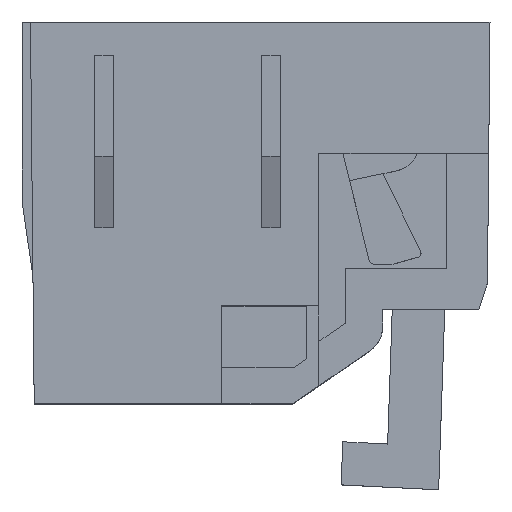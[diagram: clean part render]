
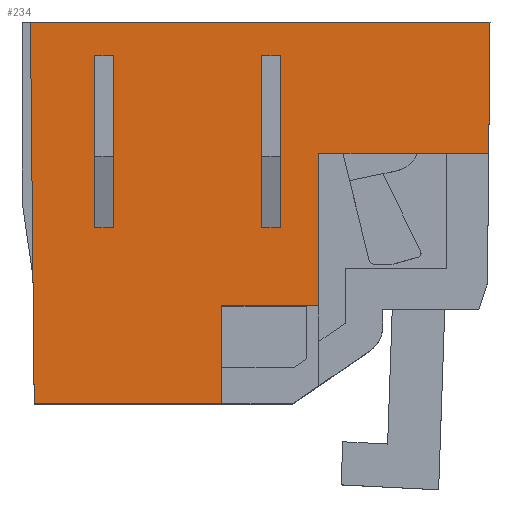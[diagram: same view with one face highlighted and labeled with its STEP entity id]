
A CAD part, top view. The second image highlights one B-rep face of the part: STEP entity #234.
In plain terms, the highlighted planar face has unit normal (0, -0.01, 1).
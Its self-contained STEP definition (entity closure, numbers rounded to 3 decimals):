
#234=ADVANCED_FACE('',(#356,#357,#358),#329,.F.);
#329=PLANE('',#2081);
#356=FACE_BOUND('',#447,.T.);
#357=FACE_BOUND('',#448,.T.);
#358=FACE_BOUND('',#449,.T.);
#447=EDGE_LOOP('',(#930,#931,#932,#933,#934,#935,#936,#937));
#448=EDGE_LOOP('',(#938,#939,#940,#941));
#449=EDGE_LOOP('',(#942,#943,#944,#945));
#930=ORIENTED_EDGE('',*,*,#1195,.F.);
#931=ORIENTED_EDGE('',*,*,#1356,.F.);
#932=ORIENTED_EDGE('',*,*,#1202,.F.);
#933=ORIENTED_EDGE('',*,*,#1298,.F.);
#934=ORIENTED_EDGE('',*,*,#1312,.F.);
#935=ORIENTED_EDGE('',*,*,#1373,.F.);
#936=ORIENTED_EDGE('',*,*,#1331,.F.);
#937=ORIENTED_EDGE('',*,*,#1351,.F.);
#938=ORIENTED_EDGE('',*,*,#1408,.F.);
#939=ORIENTED_EDGE('',*,*,#1418,.T.);
#940=ORIENTED_EDGE('',*,*,#1412,.F.);
#941=ORIENTED_EDGE('',*,*,#1415,.F.);
#942=ORIENTED_EDGE('',*,*,#1396,.F.);
#943=ORIENTED_EDGE('',*,*,#1406,.T.);
#944=ORIENTED_EDGE('',*,*,#1400,.F.);
#945=ORIENTED_EDGE('',*,*,#1403,.F.);
#1014=VERTEX_POINT('',#2591);
#1015=VERTEX_POINT('',#2593);
#1020=VERTEX_POINT('',#2605);
#1022=VERTEX_POINT('',#2608);
#1103=VERTEX_POINT('',#2800);
#1110=VERTEX_POINT('',#2825);
#1125=VERTEX_POINT('',#2863);
#1126=VERTEX_POINT('',#2865);
#1156=VERTEX_POINT('',#2993);
#1157=VERTEX_POINT('',#2995);
#1159=VERTEX_POINT('',#3001);
#1161=VERTEX_POINT('',#3004);
#1164=VERTEX_POINT('',#3018);
#1165=VERTEX_POINT('',#3020);
#1167=VERTEX_POINT('',#3026);
#1169=VERTEX_POINT('',#3029);
#1195=EDGE_CURVE('',#1014,#1015,#1467,.T.);
#1202=EDGE_CURVE('',#1020,#1022,#1474,.T.);
#1298=EDGE_CURVE('',#1103,#1020,#1566,.T.);
#1312=EDGE_CURVE('',#1110,#1103,#1580,.T.);
#1331=EDGE_CURVE('',#1125,#1126,#1596,.T.);
#1351=EDGE_CURVE('',#1015,#1125,#1616,.T.);
#1356=EDGE_CURVE('',#1022,#1014,#1621,.T.);
#1373=EDGE_CURVE('',#1126,#1110,#1638,.T.);
#1396=EDGE_CURVE('',#1156,#1157,#1658,.T.);
#1400=EDGE_CURVE('',#1159,#1161,#1662,.T.);
#1403=EDGE_CURVE('',#1157,#1159,#1665,.T.);
#1406=EDGE_CURVE('',#1156,#1161,#1668,.T.);
#1408=EDGE_CURVE('',#1164,#1165,#1670,.T.);
#1412=EDGE_CURVE('',#1167,#1169,#1674,.T.);
#1415=EDGE_CURVE('',#1165,#1167,#1677,.T.);
#1418=EDGE_CURVE('',#1164,#1169,#1680,.T.);
#1467=LINE('',#2592,#1729);
#1474=LINE('',#2607,#1736);
#1566=LINE('',#2801,#1828);
#1580=LINE('',#2826,#1842);
#1596=LINE('',#2864,#1858);
#1616=LINE('',#2903,#1878);
#1621=LINE('',#2911,#1883);
#1638=LINE('',#2945,#1900);
#1658=LINE('',#2994,#1920);
#1662=LINE('',#3003,#1924);
#1665=LINE('',#3009,#1927);
#1668=LINE('',#3014,#1930);
#1670=LINE('',#3019,#1932);
#1674=LINE('',#3028,#1936);
#1677=LINE('',#3034,#1939);
#1680=LINE('',#3039,#1942);
#1729=VECTOR('',#2104,1.);
#1736=VECTOR('',#2113,1.);
#1828=VECTOR('',#2245,1.);
#1842=VECTOR('',#2267,1.);
#1858=VECTOR('',#2297,1.);
#1878=VECTOR('',#2337,1.);
#1883=VECTOR('',#2344,1.);
#1900=VECTOR('',#2379,1.);
#1920=VECTOR('',#2433,1.);
#1924=VECTOR('',#2439,1.);
#1927=VECTOR('',#2444,1.);
#1930=VECTOR('',#2451,1.);
#1932=VECTOR('',#2455,1.);
#1936=VECTOR('',#2461,1.);
#1939=VECTOR('',#2466,1.);
#1942=VECTOR('',#2473,1.);
#2081=AXIS2_PLACEMENT_3D('',#3083,#2524,#2525);
#2104=DIRECTION('',(-0.01,-1.,-0.01));
#2113=DIRECTION('',(-0.01,1.,0.01));
#2245=DIRECTION('',(-1.,0.,0.));
#2267=DIRECTION('',(0.,-1.,-0.01));
#2297=DIRECTION('',(0.,-1.,-0.01));
#2337=DIRECTION('',(-1.,0.,0.));
#2344=DIRECTION('',(1.,0.,0.));
#2379=DIRECTION('',(-1.,0.,0.));
#2433=DIRECTION('',(0.,1.,0.01));
#2439=DIRECTION('',(0.,-1.,-0.01));
#2444=DIRECTION('',(-1.,0.,0.));
#2451=DIRECTION('',(-1.,0.,0.));
#2455=DIRECTION('',(0.,1.,0.01));
#2461=DIRECTION('',(0.,-1.,-0.01));
#2466=DIRECTION('',(-1.,0.,0.));
#2473=DIRECTION('',(-1.,0.,0.));
#2524=DIRECTION('',(0.,0.01,-1.));
#2525=DIRECTION('',(1.,0.,0.));
#2591=CARTESIAN_POINT('',(-12.399,41.767,0.));
#2592=CARTESIAN_POINT('',(-12.802,0.789,-0.403));
#2593=CARTESIAN_POINT('',(-12.537,27.767,-0.138));
#2605=CARTESIAN_POINT('',(-60.999,1.067,-0.4));
#2607=CARTESIAN_POINT('',(-61.396,41.399,-0.004));
#2608=CARTESIAN_POINT('',(-61.399,41.767,0.));
#2800=CARTESIAN_POINT('',(-40.999,1.067,-0.4));
#2801=CARTESIAN_POINT('',(-40.999,1.067,-0.4));
#2825=CARTESIAN_POINT('',(-40.999,11.517,-0.297));
#2826=CARTESIAN_POINT('',(-40.999,1.067,-0.4));
#2863=CARTESIAN_POINT('',(-30.649,27.767,-0.138));
#2864=CARTESIAN_POINT('',(-30.649,1.067,-0.4));
#2865=CARTESIAN_POINT('',(-30.649,11.517,-0.297));
#2903=CARTESIAN_POINT('',(-40.999,27.767,-0.138));
#2911=CARTESIAN_POINT('',(-30.649,41.767,0.));
#2945=CARTESIAN_POINT('',(-40.999,11.517,-0.297));
#2993=CARTESIAN_POINT('',(-52.549,19.864,-0.215));
#2994=CARTESIAN_POINT('',(-52.549,38.059,-0.036));
#2995=CARTESIAN_POINT('',(-52.549,38.167,-0.035));
#3001=CARTESIAN_POINT('',(-54.549,38.167,-0.035));
#3003=CARTESIAN_POINT('',(-54.549,19.861,-0.215));
#3004=CARTESIAN_POINT('',(-54.549,19.864,-0.215));
#3009=CARTESIAN_POINT('',(-54.549,38.167,-0.035));
#3014=CARTESIAN_POINT('',(-52.549,19.864,-0.215));
#3018=CARTESIAN_POINT('',(-34.749,19.864,-0.215));
#3019=CARTESIAN_POINT('',(-34.749,38.059,-0.036));
#3020=CARTESIAN_POINT('',(-34.749,38.167,-0.035));
#3026=CARTESIAN_POINT('',(-36.749,38.167,-0.035));
#3028=CARTESIAN_POINT('',(-36.749,19.861,-0.215));
#3029=CARTESIAN_POINT('',(-36.749,19.864,-0.215));
#3034=CARTESIAN_POINT('',(-36.749,38.167,-0.035));
#3039=CARTESIAN_POINT('',(-34.749,19.864,-0.215));
#3083=CARTESIAN_POINT('',(-40.999,1.067,-0.4));
